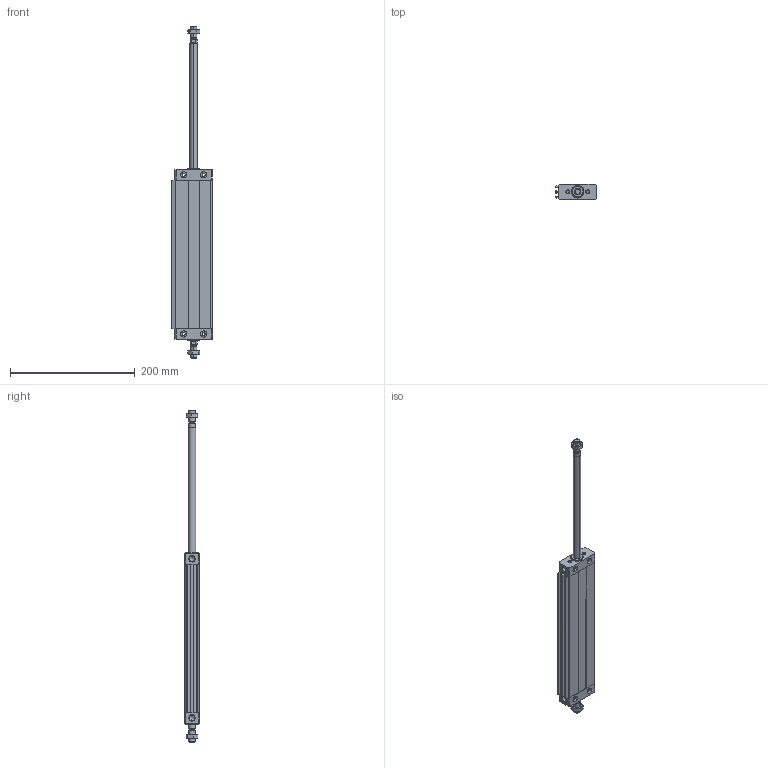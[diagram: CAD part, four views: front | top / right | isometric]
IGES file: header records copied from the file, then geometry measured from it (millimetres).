
Global section: file name: No Iges File Name specified; native system: Autodesk Inventor 2011; preprocessor: AutoDesk Inventor Iges Exporter R2011; author: airolcr1; date: 20101213.153035; units: millimetre
Bounding box: 65.5 x 24 x 532 mm (x, y, z)
Volume: 268341.8 mm3; surface area: 119569.4 mm2
Topology: 6 solids, 6 shells, 274 faces, 646 edges, 392 vertices
Faces by surface type: bspline 110, plane 96, cone 36, cylinder 18, revolution 14
